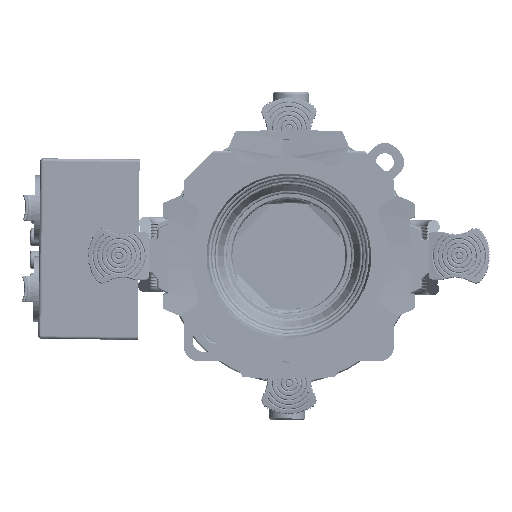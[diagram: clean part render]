
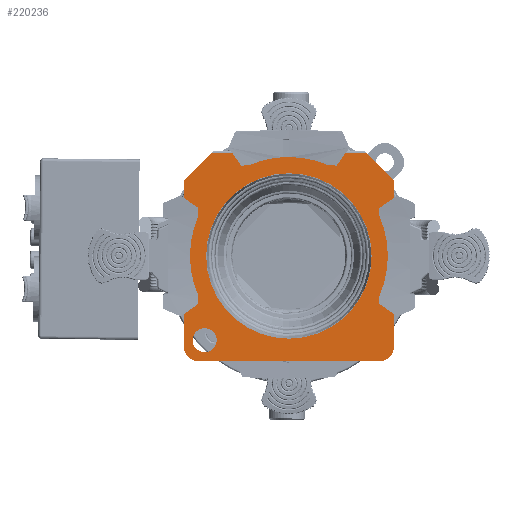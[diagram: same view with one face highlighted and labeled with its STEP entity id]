
A CAD part, front view. The second image highlights one B-rep face of the part: STEP entity #220236.
In plain terms, the highlighted planar face has unit normal (0, -1, 0) as drawn and (0, 1, 0) by its records, which use the part's own axes.
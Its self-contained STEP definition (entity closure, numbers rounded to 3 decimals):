
#219376=DIRECTION('',(0.,0.,1.));
#219377=VECTOR('',#219376,0.75);
#219378=CARTESIAN_POINT('',(-13.,0.75,33.5));
#219379=LINE('',#219378,#219377);
#219482=DIRECTION('',(0.707,0.,0.707));
#219483=VECTOR('',#219482,13.081);
#219484=CARTESIAN_POINT('',(-35.,0.75,25.));
#219485=LINE('',#219484,#219483);
#219486=DIRECTION('',(0.,0.,1.));
#219487=VECTOR('',#219486,55.);
#219488=CARTESIAN_POINT('',(-35.,0.75,-30.));
#219489=LINE('',#219488,#219487);
#219490=CARTESIAN_POINT('',(-30.,0.75,-30.));
#219491=DIRECTION('',(0.,1.,0.));
#219492=DIRECTION('',(0.,0.,-1.));
#219493=AXIS2_PLACEMENT_3D('',#219490,#219491,#219492);
#219495=DIRECTION('',(-1.,0.,0.));
#219496=VECTOR('',#219495,60.);
#219497=CARTESIAN_POINT('',(30.,0.75,-35.));
#219498=LINE('',#219497,#219496);
#219499=CARTESIAN_POINT('',(30.,0.75,-30.));
#219500=DIRECTION('',(0.,1.,0.));
#219501=DIRECTION('',(1.,0.,0.));
#219502=AXIS2_PLACEMENT_3D('',#219499,#219500,#219501);
#219504=DIRECTION('',(0.,0.,-1.));
#219505=VECTOR('',#219504,55.);
#219506=CARTESIAN_POINT('',(35.,0.75,25.));
#219507=LINE('',#219506,#219505);
#219508=DIRECTION('',(0.707,0.,-0.707));
#219509=VECTOR('',#219508,13.081);
#219510=CARTESIAN_POINT('',(25.75,0.75,34.25));
#219511=LINE('',#219510,#219509);
#219512=CARTESIAN_POINT('',(28.,0.75,-28.));
#219513=DIRECTION('',(0.,-1.,0.));
#219514=DIRECTION('',(1.,0.,0.));
#219515=AXIS2_PLACEMENT_3D('',#219512,#219513,#219514);
#219517=CARTESIAN_POINT('',(28.,0.75,-28.));
#219518=DIRECTION('',(0.,-1.,0.));
#219519=DIRECTION('',(-1.,0.,0.));
#219520=AXIS2_PLACEMENT_3D('',#219517,#219518,#219519);
#219522=CARTESIAN_POINT('',(0.,0.75,0.));
#219523=DIRECTION('',(0.,-1.,0.));
#219524=DIRECTION('',(1.,0.,0.));
#219525=AXIS2_PLACEMENT_3D('',#219522,#219523,#219524);
#219527=CARTESIAN_POINT('',(0.,0.75,0.));
#219528=DIRECTION('',(0.,-1.,0.));
#219529=DIRECTION('',(-1.,0.,0.));
#219530=AXIS2_PLACEMENT_3D('',#219527,#219528,#219529);
#219541=DIRECTION('',(0.,0.,1.));
#219542=VECTOR('',#219541,0.75);
#219543=CARTESIAN_POINT('',(5.,0.75,33.5));
#219544=LINE('',#219543,#219542);
#219553=DIRECTION('',(0.,0.,-1.));
#219554=VECTOR('',#219553,0.75);
#219555=CARTESIAN_POINT('',(-5.,0.75,34.25));
#219556=LINE('',#219555,#219554);
#219570=DIRECTION('',(-1.,0.,0.));
#219571=VECTOR('',#219570,8.);
#219572=CARTESIAN_POINT('',(-5.,0.75,33.5));
#219573=LINE('',#219572,#219571);
#219578=DIRECTION('',(-1.,0.,0.));
#219579=VECTOR('',#219578,10.);
#219580=CARTESIAN_POINT('',(5.,0.75,34.25));
#219581=LINE('',#219580,#219579);
#219668=DIRECTION('',(0.,0.,-1.));
#219669=VECTOR('',#219668,0.75);
#219670=CARTESIAN_POINT('',(13.,0.75,34.25));
#219671=LINE('',#219670,#219669);
#219685=DIRECTION('',(-1.,0.,0.));
#219686=VECTOR('',#219685,8.);
#219687=CARTESIAN_POINT('',(13.,0.75,33.5));
#219688=LINE('',#219687,#219686);
#219689=DIRECTION('',(-1.,0.,0.));
#219690=VECTOR('',#219689,12.75);
#219691=CARTESIAN_POINT('',(25.75,0.75,34.25));
#219692=LINE('',#219691,#219690);
#219741=DIRECTION('',(-1.,0.,0.));
#219742=VECTOR('',#219741,12.75);
#219743=CARTESIAN_POINT('',(-13.,0.75,34.25));
#219744=LINE('',#219743,#219742);
#219781=CARTESIAN_POINT('',(-27.5,0.75,0.));
#219782=CARTESIAN_POINT('',(27.5,0.75,0.));
#219783=VERTEX_POINT('',#219781);
#219784=VERTEX_POINT('',#219782);
#219790=CARTESIAN_POINT('',(30.,0.75,-35.));
#219792=VERTEX_POINT('',#219790);
#219793=CARTESIAN_POINT('',(-5.,0.75,33.5));
#219795=VERTEX_POINT('',#219793);
#219797=CARTESIAN_POINT('',(13.,0.75,33.5));
#219799=VERTEX_POINT('',#219797);
#219805=CARTESIAN_POINT('',(25.75,0.75,34.25));
#219806=CARTESIAN_POINT('',(13.,0.75,34.25));
#219807=VERTEX_POINT('',#219805);
#219808=VERTEX_POINT('',#219806);
#219815=CARTESIAN_POINT('',(-30.,0.75,-35.));
#219816=CARTESIAN_POINT('',(-35.,0.75,-30.));
#219817=VERTEX_POINT('',#219815);
#219818=VERTEX_POINT('',#219816);
#219833=CARTESIAN_POINT('',(35.,0.75,-30.));
#219834=VERTEX_POINT('',#219833);
#219843=CARTESIAN_POINT('',(-13.,0.75,34.25));
#219844=CARTESIAN_POINT('',(-25.75,0.75,34.25));
#219845=VERTEX_POINT('',#219843);
#219846=VERTEX_POINT('',#219844);
#219857=CARTESIAN_POINT('',(35.,0.75,25.));
#219858=VERTEX_POINT('',#219857);
#219865=CARTESIAN_POINT('',(-13.,0.75,33.5));
#219867=VERTEX_POINT('',#219865);
#219871=CARTESIAN_POINT('',(5.,0.75,33.5));
#219873=VERTEX_POINT('',#219871);
#219875=CARTESIAN_POINT('',(5.,0.75,34.25));
#219876=VERTEX_POINT('',#219875);
#219881=CARTESIAN_POINT('',(-35.,0.75,25.));
#219882=VERTEX_POINT('',#219881);
#219883=CARTESIAN_POINT('',(24.,0.75,-28.));
#219884=CARTESIAN_POINT('',(32.,0.75,-28.));
#219885=VERTEX_POINT('',#219883);
#219886=VERTEX_POINT('',#219884);
#219905=CARTESIAN_POINT('',(-5.,0.75,34.25));
#219906=VERTEX_POINT('',#219905);
#220192=CARTESIAN_POINT('',(-42.131,0.75,41.306));
#220193=DIRECTION('',(0.,1.,0.));
#220194=DIRECTION('',(1.,0.,0.));
#220195=AXIS2_PLACEMENT_3D('',#220192,#220193,#220194);
#220196=PLANE('',#220195);
#220198=ORIENTED_EDGE('',*,*,#220197,.T.);
#220200=ORIENTED_EDGE('',*,*,#220199,.T.);
#220202=ORIENTED_EDGE('',*,*,#220201,.T.);
#220204=ORIENTED_EDGE('',*,*,#220203,.T.);
#220205=ORIENTED_EDGE('',*,*,#220082,.T.);
#220207=ORIENTED_EDGE('',*,*,#220206,.T.);
#220208=ORIENTED_EDGE('',*,*,#220041,.F.);
#220210=ORIENTED_EDGE('',*,*,#220209,.F.);
#220211=ORIENTED_EDGE('',*,*,#220144,.F.);
#220212=ORIENTED_EDGE('',*,*,#220159,.F.);
#220213=ORIENTED_EDGE('',*,*,#220173,.F.);
#220214=ORIENTED_EDGE('',*,*,#220186,.F.);
#220215=ORIENTED_EDGE('',*,*,#219971,.F.);
#220217=ORIENTED_EDGE('',*,*,#220216,.T.);
#220219=ORIENTED_EDGE('',*,*,#220218,.T.);
#220221=ORIENTED_EDGE('',*,*,#220220,.T.);
#220222=EDGE_LOOP('',(#220198,#220200,#220202,#220204,#220205,#220207,#220208,
#220210,#220211,#220212,#220213,#220214,#220215,#220217,#220219,#220221));
#220223=FACE_OUTER_BOUND('',#220222,.F.);
#220225=ORIENTED_EDGE('',*,*,#220224,.F.);
#220227=ORIENTED_EDGE('',*,*,#220226,.F.);
#220228=EDGE_LOOP('',(#220225,#220227));
#220229=FACE_BOUND('',#220228,.F.);
#220231=ORIENTED_EDGE('',*,*,#220230,.F.);
#220233=ORIENTED_EDGE('',*,*,#220232,.F.);
#220234=EDGE_LOOP('',(#220231,#220233));
#220235=FACE_BOUND('',#220234,.F.);
#219494=CIRCLE('',#219493,5.);
#219503=CIRCLE('',#219502,5.);
#219516=CIRCLE('',#219515,4.);
#219521=CIRCLE('',#219520,4.);
#219526=CIRCLE('',#219525,27.5);
#219531=CIRCLE('',#219530,27.5);
#219971=EDGE_CURVE('',#219807,#219858,#219511,.T.);
#220041=EDGE_CURVE('',#219882,#219846,#219485,.T.);
#220082=EDGE_CURVE('',#219867,#219845,#219379,.T.);
#220144=EDGE_CURVE('',#219817,#219818,#219494,.T.);
#220159=EDGE_CURVE('',#219792,#219817,#219498,.T.);
#220173=EDGE_CURVE('',#219834,#219792,#219503,.T.);
#220186=EDGE_CURVE('',#219858,#219834,#219507,.T.);
#220197=EDGE_CURVE('',#219873,#219876,#219544,.T.);
#220199=EDGE_CURVE('',#219876,#219906,#219581,.T.);
#220201=EDGE_CURVE('',#219906,#219795,#219556,.T.);
#220203=EDGE_CURVE('',#219795,#219867,#219573,.T.);
#220206=EDGE_CURVE('',#219845,#219846,#219744,.T.);
#220209=EDGE_CURVE('',#219818,#219882,#219489,.T.);
#220216=EDGE_CURVE('',#219807,#219808,#219692,.T.);
#220218=EDGE_CURVE('',#219808,#219799,#219671,.T.);
#220220=EDGE_CURVE('',#219799,#219873,#219688,.T.);
#220224=EDGE_CURVE('',#219886,#219885,#219516,.T.);
#220226=EDGE_CURVE('',#219885,#219886,#219521,.T.);
#220230=EDGE_CURVE('',#219784,#219783,#219526,.T.);
#220232=EDGE_CURVE('',#219783,#219784,#219531,.T.);
#220236=ADVANCED_FACE('',(#220223,#220229,#220235),#220196,.T.);
